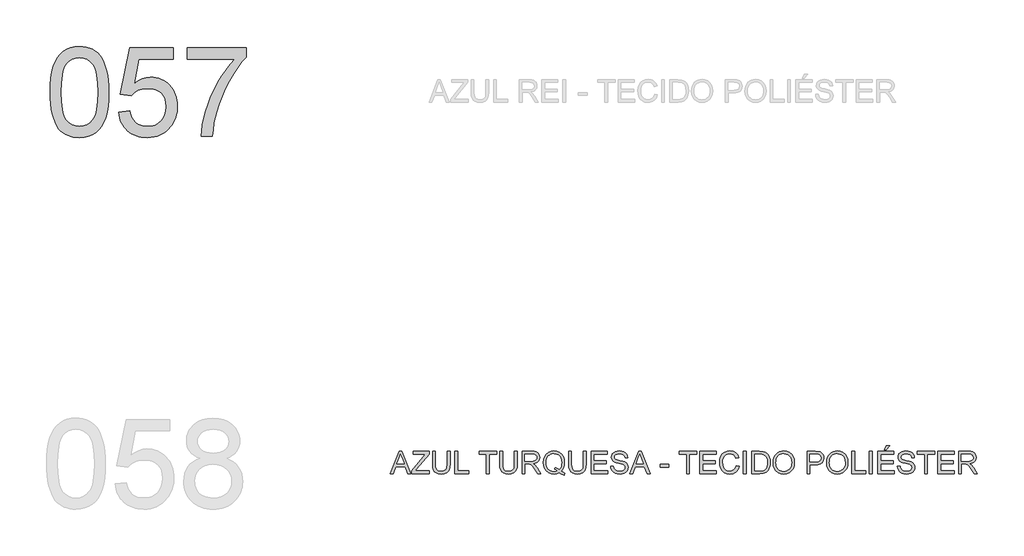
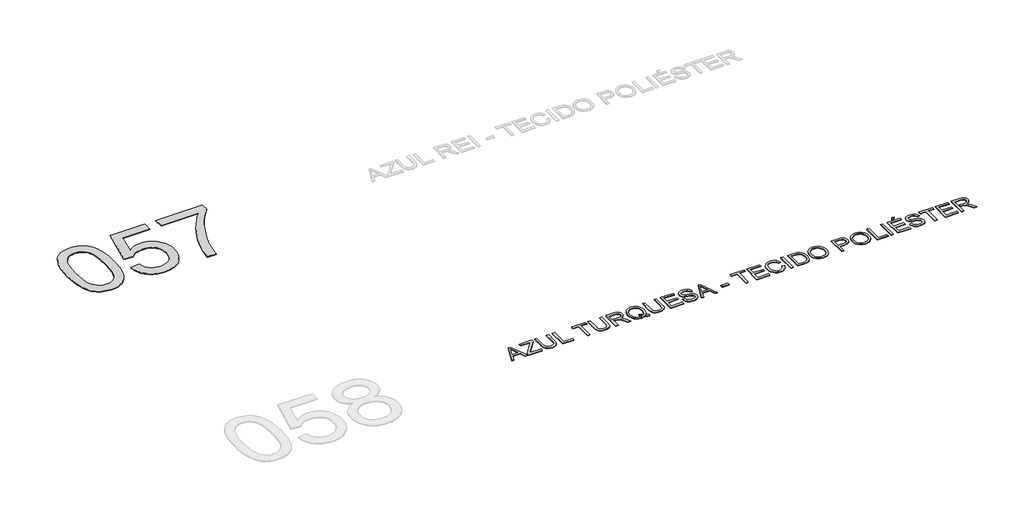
# One storey, part 18 of 35: 2 proxies.
"""IFC4 building model written with IfcOpenShell, lengths in millimetres."""

from ifc_helpers import new_model, si_unit, origin, origin_with_axes, place, context, project, spatial, polyline, outline, extrude, element, save

model = new_model("IFC4")

# Units and contexts
model_context = context("Model", 3, world=origin())
ifc_project = project(units=[si_unit("LENGTHUNIT", "METRE", prefix="MILLI")], contexts=[model_context])

# Site, building, storey
site = spatial("IfcSite", under=ifc_project)
building = spatial("IfcBuilding", under=site)
storey = spatial("IfcBuildingStorey", under=building, Name="Marelli - Linha YOU - Planta Baixa", Elevation=0.0)

# Proxies
placement = place(None, origin())
element("IfcBuildingElementProxy", 1, Name="1200mm Arial", ObjectType="1200mm Arial", at=placement, inside=storey, context=model_context, shape_type="SweptSolid", body=[
    extrude(outline(polyline([(-25134.0424838, -49895.792664), (-25131.2741718, -49794.4319773), (-25122.9692358, -49702.8385576), (-25109.1276757, -49621.0124048), (-25089.7494916, -49548.953519), (-25064.9174569, -49486.073289), (-25034.7143451, -49431.7831035), (-24999.1401562, -49386.0829627), (-24958.1948901, -49348.9728664), (-24911.7405912, -49320.2596767), (-24859.6393036, -49299.7502555), (-24801.8910274, -49287.4446027), (-24738.4957626, -49283.3427185), (-24690.8550442, -49285.7707396), (-24645.642347, -49293.0548031), (-24602.857671, -49305.194909), (-24562.5010161, -49322.1910572), (-24525.5472697, -49343.7581391), (-24492.971319, -49369.6110463), (-24464.7731641, -49399.7497788), (-24440.9528049, -49434.1743365), (-24420.314625, -49472.7467637), (-24401.6630078, -49515.3291046), (-24370.3194618, -49612.5235278), (-24358.3449029, -49669.6831928), (-24349.7916465, -49735.9479371), (-24344.6596927, -49811.3177609), (-24342.9490414, -49895.792664), (-24345.6897623, -49996.5095573), (-24353.9119248, -50087.6431245), (-24367.6155292, -50169.1933658), (-24386.8005752, -50241.1602811), (-24411.4394718, -50304.0681023), (-24441.5046279, -50358.4410612), (-24476.9960434, -50404.2791578), (-24517.9137183, -50441.5823921), (-24564.4231995, -50470.4887199), (-24616.690034, -50491.1360968), (-24674.7142217, -50503.524523), (-24738.4957626, -50507.6539984), (-24781.170074, -50505.8605737), (-24821.4899407, -50500.4802995), (-24859.4553626, -50491.5131759), (-24895.0663398, -50478.9592028), (-24928.3228721, -50462.8183803), (-24959.2249597, -50443.0907083), (-24987.7726025, -50419.7761868), (-25013.9658006, -50392.8748159), (-25042.1087732, -50350.2786794), (-25066.4993495, -50302.0999336), (-25087.1375294, -50248.3385785), (-25104.023313, -50188.9946142), (-25117.1567002, -50124.0680406), (-25126.5376911, -50053.5588577), (-25132.1662856, -49977.4670655), (-25134.0424838, -49895.792664)]), holes=[polyline([(-24983.3580186, -49895.4983584), (-24978.9434347, -50026.4919399), (-24965.6996828, -50132.5247279), (-24955.766869, -50176.1808245), (-24943.6267631, -50213.5967226), (-24929.2793653, -50244.7724225), (-24912.7246755, -50269.7079239), (-24875.3478648, -50307.884878), (-24833.8507758, -50335.1541309), (-24788.2334084, -50351.5156826), (-24738.4957626, -50356.9695332), (-24688.7581169, -50351.4972885), (-24643.1407495, -50335.0805545), (-24601.6436604, -50307.7193311), (-24564.2668497, -50269.4136183), (-24547.7121599, -50244.418336), (-24533.3647621, -50213.2104465), (-24521.2246563, -50175.7899498), (-24511.2918424, -50132.1568459), (-24498.0480906, -50026.2528166), (-24493.6335066, -49895.4983584), (-24497.9009378, -49767.9720648), (-24510.7032312, -49663.8062779), (-24520.3049513, -49620.4835744), (-24532.0403869, -49583.0009976), (-24545.9095381, -49551.3585475), (-24561.9124049, -49525.5562241), (-24598.6638162, -49485.5122689), (-24640.6391519, -49456.9094438), (-24687.8384119, -49439.7477487), (-24740.2615962, -49434.0271837), (-24789.7417245, -49439.067167), (-24834.5865397, -49454.187117), (-24874.7960418, -49479.3870337), (-24910.3702308, -49514.666917), (-24927.4767435, -49543.2145599), (-24942.3023879, -49577.2068562), (-24954.847164, -49616.6438061), (-24965.1110716, -49661.5254095), (-24978.7962819, -49767.6225769), (-24983.3580186, -49895.4983584)])]), origin_with_axes(), (0.0, 0.0, 1.0), 10.0),
    extrude(outline(polyline([(-24211.1001343, -50168.6139517), (-24060.4156691, -50149.7783935), (-24049.15848, -50198.2192552), (-24032.7509431, -50240.2405761), (-24011.1930581, -50275.8423562), (-23984.4848253, -50305.0245955), (-23952.6814268, -50327.7505057), (-23915.838045, -50343.9832988), (-23873.9546798, -50353.7229746), (-23827.0313314, -50356.9695332), (-23769.6417401, -50352.4537817), (-23719.0211776, -50338.9065272), (-23675.1696437, -50316.3277698), (-23638.0871386, -50284.7175093), (-23608.6013967, -50245.6392444), (-23587.5401525, -50200.6564734), (-23574.903406, -50149.7691965), (-23570.6911571, -50092.9774135), (-23574.6366915, -50039.3034304), (-23586.4732947, -49991.5891356), (-23606.2009667, -49949.8345291), (-23633.8197075, -49914.039611), (-23669.4214876, -49885.3264213), (-23713.0982775, -49864.817), (-23764.8500771, -49852.5113473), (-23824.6768866, -49848.4094631), (-23862.9642052, -49850.0465379), (-23897.775039, -49854.9577626), (-23929.109388, -49863.143137), (-23956.9672521, -49874.6026611), (-24004.2400884, -49904.6954083), (-24041.5801109, -49942.5872538), (-24192.2645762, -49923.7516957), (-24060.4156691, -49302.1782766), (-23476.5133664, -49302.1782766), (-23476.5133664, -49452.8627418), (-23938.5731523, -49452.8627418), (-24003.0260778, -49784.8394543), (-23949.8487354, -49746.7268796), (-23895.3838061, -49719.503612), (-23839.6312897, -49703.1696514), (-23782.5911863, -49697.7249978), (-23745.1522955, -49699.4126565), (-23709.2079254, -49704.4756324), (-23674.7580758, -49712.9139257), (-23641.8027468, -49724.7275363), (-23610.3419384, -49739.9164642), (-23580.3756506, -49758.4807093), (-23551.9038835, -49780.4202718), (-23524.9266369, -49805.7351516), (-23500.3360248, -49833.7033803), (-23479.024161, -49863.6029895), (-23460.9910454, -49895.4339791), (-23446.2366781, -49929.1963492), (-23434.7610592, -49964.8900998), (-23426.5641885, -50002.5152308), (-23421.646066, -50042.0717424), (-23420.0066919, -50083.5596344), (-23425.9111979, -50161.6241938), (-23433.2918304, -50198.6147284), (-23443.624716, -50234.2440996), (-23456.9098545, -50268.5123075), (-23473.1472461, -50301.4193519), (-23492.3368907, -50332.965233), (-23514.4787883, -50363.1499507), (-23544.479565, -50397.0180869), (-23577.0923038, -50426.3704716), (-23612.3170049, -50451.2071048), (-23650.1536681, -50471.5279865), (-23690.6022934, -50487.3331167), (-23733.662881, -50498.6224954), (-23779.3354307, -50505.3961227), (-23827.6199425, -50507.6539984), (-23905.3809993, -50501.8506599), (-23941.4403326, -50494.5964869), (-23975.6188692, -50484.4406445), (-24007.9166091, -50471.383133), (-24038.3335523, -50455.4239522), (-24066.8696989, -50436.5631021), (-24093.5250487, -50414.8005828), (-24117.8627419, -50390.6422321), (-24139.4459187, -50364.5938875), (-24158.2745791, -50336.6555493), (-24174.348723, -50306.8272173), (-24187.6683505, -50275.1088915), (-24198.2334615, -50241.500572), (-24211.1001343, -50168.6139517)])), origin_with_axes(), (0.0, 0.0, 1.0), 10.0),
    extrude(outline(polyline([(-23288.1577848, -49452.8627418), (-23288.1577848, -49302.1782766), (-22497.0643424, -49302.1782766), (-22497.0643424, -49424.0207934), (-22553.5802139, -49490.5246611), (-22609.8201739, -49566.7222194), (-22665.7842224, -49652.6134682), (-22721.4723595, -49748.1984076), (-22773.8679526, -49849.3383651), (-22819.9543696, -49951.8946683), (-22859.7316103, -50055.8673172), (-22893.1996748, -50161.2563118), (-22913.1388789, -50237.7941609), (-22929.1049575, -50317.9004653), (-22941.0979106, -50401.5752251), (-22949.1177381, -50488.8184403), (-23099.8022033, -50488.8184403), (-23095.0657226, -50414.8189769), (-23083.5050309, -50333.4986619), (-23065.1201282, -50244.8574952), (-23039.9110145, -50148.8954767), (-23008.1719953, -50050.1651463), (-22970.1973764, -49953.2190435), (-22925.9871576, -49858.0571684), (-22875.541339, -49764.679521), (-22821.1315919, -49675.8268221), (-22765.0295877, -49594.2397926), (-22707.2353262, -49519.9184325), (-22647.7488076, -49452.8627418), (-23288.1577848, -49452.8627418)])), origin_with_axes(), (0.0, 0.0, 1.0), 10.0),
])
element("IfcBuildingElementProxy", 2, Name="300mm Arial", ObjectType="300mm Arial", at=placement, inside=storey, context=model_context, shape_type="SweptSolid", body=[
    extrude(outline(polyline([(-20555.6877131, -55030.5663201), (-20435.3903007, -54729.1973896), (-20403.3109907, -54729.1973896), (-20283.0135783, -55030.5663201), (-20322.8184102, -55030.5663201), (-20357.3257413, -54936.3885293), (-20481.4491265, -54936.3885293), (-20515.8828812, -55030.5663201), (-20555.6877131, -55030.5663201)]), holes=[polyline([(-20467.6167635, -54898.717413), (-20371.0845279, -54898.717413), (-20398.2342192, -54824.6259792), (-20419.3506457, -54766.8685059), (-20438.1126275, -54818.1512561), (-20467.6167635, -54898.717413)])]), origin_with_axes(), (0.0, 0.0, 1.0), 10.0),
    extrude(outline(polyline([(-20266.3117357, -55030.5663201), (-20266.3117357, -54991.4972522), (-20112.1691797, -54802.7737887), (-20082.8857729, -54766.8685059), (-20247.4761776, -54766.8685059), (-20247.4761776, -54729.1973896), (-20035.5761483, -54729.1973896), (-20035.5761483, -54766.8685059), (-20204.2868313, -54973.397458), (-20220.1793335, -54992.8952038), (-20030.8672588, -54992.8952038), (-20030.8672588, -55030.5663201), (-20266.3117357, -55030.5663201)])), origin_with_axes(), (0.0, 0.0, 1.0), 10.0),
    extrude(outline(polyline([(-19790.7138923, -54729.1973896), (-19753.042776, -54729.1973896), (-19753.042776, -54903.0584205), (-19755.5995559, -54943.7737604), (-19763.2698955, -54975.1265034), (-19777.5988992, -54999.3147446), (-19800.1316714, -55018.5365788), (-19830.9233944, -55031.0905519), (-19870.0292505, -55035.2752096), (-19908.279781, -55031.6331779), (-19938.8599718, -55020.7070826), (-19961.7790201, -55002.8740029), (-19977.0461229, -54978.5110178), (-19985.6269704, -54945.8338995), (-19988.487253, -54903.0584205), (-19988.487253, -54729.1973896), (-19950.8161366, -54729.1973896), (-19950.8161366, -54901.7340454), (-19948.9583326, -54935.588386), (-19943.3849203, -54959.1604248), (-19933.2865596, -54975.4851883), (-19917.8539099, -54987.597703), (-19897.7307647, -54995.1024957), (-19873.5609177, -54997.6040933), (-19835.2460079, -54992.6560805), (-19820.9032086, -54986.4710644), (-19809.7701797, -54977.812042), (-19801.433054, -54965.6351479), (-19795.4779642, -54948.8965171), (-19790.7138923, -54901.7340454), (-19790.7138923, -54729.1973896)])), origin_with_axes(), (0.0, 0.0, 1.0), 10.0),
    extrude(outline(polyline([(-19687.1183225, -55030.5663201), (-19687.1183225, -54729.1973896), (-19649.4472062, -54729.1973896), (-19649.4472062, -54992.8952038), (-19498.762741, -54992.8952038), (-19498.762741, -55030.5663201), (-19687.1183225, -55030.5663201)])), origin_with_axes(), (0.0, 0.0, 1.0), 10.0),
    extrude(outline(polyline([(-19263.3182641, -55030.5663201), (-19263.3182641, -54766.8685059), (-19362.2049444, -54766.8685059), (-19362.2049444, -54729.1973896), (-19126.7604675, -54729.1973896), (-19126.7604675, -54766.8685059), (-19225.6471478, -54766.8685059), (-19225.6471478, -55030.5663201), (-19263.3182641, -55030.5663201)])), origin_with_axes(), (0.0, 0.0, 1.0), 10.0),
    extrude(outline(polyline([(-18886.607101, -54729.1973896), (-18848.9359847, -54729.1973896), (-18848.9359847, -54903.0584205), (-18851.4927646, -54943.7737604), (-18859.1631042, -54975.1265034), (-18873.4921079, -54999.3147446), (-18896.0248801, -55018.5365788), (-18926.8166031, -55031.0905519), (-18965.9224592, -55035.2752096), (-19004.1729896, -55031.6331779), (-19034.7531805, -55020.7070826), (-19057.6722288, -55002.8740029), (-19072.9393316, -54978.5110178), (-19081.5201791, -54945.8338995), (-19084.3804616, -54903.0584205), (-19084.3804616, -54729.1973896), (-19046.7093453, -54729.1973896), (-19046.7093453, -54901.7340454), (-19044.8515412, -54935.588386), (-19039.278129, -54959.1604248), (-19029.1797682, -54975.4851883), (-19013.7471185, -54987.597703), (-18993.6239734, -54995.1024957), (-18969.4541263, -54997.6040933), (-18931.1392165, -54992.6560805), (-18916.7964172, -54986.4710644), (-18905.6633883, -54977.812042), (-18897.3262626, -54965.6351479), (-18891.3711728, -54948.8965171), (-18886.607101, -54901.7340454), (-18886.607101, -54729.1973896)])), origin_with_axes(), (0.0, 0.0, 1.0), 10.0),
    extrude(outline(polyline([(-18783.0115312, -55030.5663201), (-18783.0115312, -54729.1973896), (-18653.1491869, -54729.1973896), (-18618.2463826, -54731.2299376), (-18592.8533279, -54737.3275817), (-18574.2936812, -54748.5847708), (-18559.8911011, -54766.0959537), (-18550.648066, -54787.8101885), (-18547.5670542, -54811.6765329), (-18552.6714169, -54841.3646099), (-18567.984505, -54865.9759154), (-18579.5842841, -54876.0052983), (-18593.9661709, -54884.0205273), (-18631.0762671, -54894.0085235), (-18609.665535, -54910.1217548), (-18579.1313294, -54948.8965171), (-18528.8786489, -55030.5663201), (-18572.6566063, -55030.5663201), (-18611.872827, -54968.0999573), (-18640.1997406, -54926.750021), (-18660.1021566, -54907.2154871), (-18678.0180097, -54900.0417882), (-18699.8702002, -54898.717413), (-18745.3404149, -54898.717413), (-18745.3404149, -55030.5663201), (-18783.0115312, -55030.5663201)]), holes=[polyline([(-18745.3404149, -54861.0462967), (-18661.0218616, -54861.0462967), (-18636.8060292, -54859.7127245), (-18618.0164563, -54855.7120078), (-18603.8713936, -54848.7774322), (-18593.5890918, -54838.6422832), (-18587.3259009, -54826.3826157), (-18585.2381706, -54813.0744845), (-18589.2204931, -54794.6987789), (-18601.1674609, -54779.8915286), (-18621.7228674, -54770.1242616), (-18651.5305061, -54766.8685059), (-18745.3404149, -54766.8685059), (-18745.3404149, -54861.0462967)])]), origin_with_axes(), (0.0, 0.0, 1.0), 10.0),
    extrude(outline(polyline([(-18255.2480209, -54994.4403081), (-18230.9126269, -55013.036743), (-18208.5270075, -55025.8574305), (-18218.6805506, -55053.4485802), (-18249.748185, -55039.0460001), (-18280.7054549, -55018.205485), (-18315.562274, -55031.0077785), (-18353.913972, -55035.2752096), (-18392.449611, -55030.3547879), (-18427.2696418, -55015.5935229), (-18456.433487, -54991.9203165), (-18478.000569, -54960.2640708), (-18491.3270942, -54922.3630282), (-18495.7692693, -54879.9554312), (-18491.3362913, -54837.511046), (-18478.0373572, -54799.0581805), (-18456.5530486, -54766.9512794), (-18427.5639474, -54743.5447874), (-18392.8726753, -54729.2525719), (-18354.281854, -54724.4885001), (-18315.38753, -54729.3629365), (-18280.5215139, -54743.9862458), (-18251.578398, -54767.3835407), (-18230.4527744, -54798.5799339), (-18217.5401164, -54835.9199564), (-18213.235897, -54877.7481393), (-18215.8478592, -54912.5313819), (-18223.6837457, -54943.5990164), (-18236.7987388, -54970.9142545), (-18255.2480209, -54994.4403081)]), holes=[polyline([(-18343.5396997, -54944.3347804), (-18311.8650599, -54956.3093393), (-18286.2972613, -54972.9559996), (-18270.8140278, -54955.4816049), (-18259.7545753, -54934.1076609), (-18253.1189038, -54908.8341679), (-18250.9070133, -54879.6611256), (-18254.0340103, -54846.5057608), (-18263.4150012, -54817.8201623), (-18278.8200597, -54794.3308969), (-18300.0192597, -54776.7645316), (-18325.5778613, -54765.8108452), (-18354.0611248, -54762.1596164), (-18375.5454333, -54764.0059242), (-18395.1167554, -54769.5448474), (-18412.7750912, -54778.7763863), (-18428.5204406, -54791.7005406), (-18441.4606898, -54808.2897193), (-18450.7037249, -54828.5163313), (-18456.249546, -54852.3803764), (-18458.098153, -54879.8818548), (-18456.2702394, -54906.6659634), (-18450.7864984, -54930.1437324), (-18441.64693, -54950.3151621), (-18428.8515344, -54967.1802523), (-18413.2142503, -54980.4906827), (-18395.5490168, -54989.998133), (-18375.8558337, -54995.7026032), (-18354.1347012, -54997.6040933), (-18333.2206098, -54995.6727128), (-18313.5941053, -54989.8785714), (-18332.889516, -54979.853787), (-18353.2517844, -54973.1767288), (-18343.5396997, -54944.3347804)])]), origin_with_axes(), (0.0, 0.0, 1.0), 10.0),
    extrude(outline(polyline([(-17958.955862, -54729.1973896), (-17921.2847457, -54729.1973896), (-17921.2847457, -54903.0584205), (-17923.8415255, -54943.7737604), (-17931.5118651, -54975.1265034), (-17945.8408688, -54999.3147446), (-17968.373641, -55018.5365788), (-17999.165364, -55031.0905519), (-18038.2712201, -55035.2752096), (-18076.5217506, -55031.6331779), (-18107.1019414, -55020.7070826), (-18130.0209897, -55002.8740029), (-18145.2880925, -54978.5110178), (-18153.8689401, -54945.8338995), (-18156.7292226, -54903.0584205), (-18156.7292226, -54729.1973896), (-18119.0581063, -54729.1973896), (-18119.0581063, -54901.7340454), (-18117.2003022, -54935.588386), (-18111.62689, -54959.1604248), (-18101.5285292, -54975.4851883), (-18086.0958795, -54987.597703), (-18065.9727344, -54995.1024957), (-18041.8028873, -54997.6040933), (-18003.4879775, -54992.6560805), (-17989.1451782, -54986.4710644), (-17978.0121493, -54977.812042), (-17969.6750236, -54965.6351479), (-17963.7199338, -54948.8965171), (-17958.955862, -54901.7340454), (-17958.955862, -54729.1973896)])), origin_with_axes(), (0.0, 0.0, 1.0), 10.0),
    extrude(outline(polyline([(-17855.3602921, -55030.5663201), (-17855.3602921, -54729.1973896), (-17638.7513734, -54729.1973896), (-17638.7513734, -54766.8685059), (-17817.6891758, -54766.8685059), (-17817.6891758, -54856.3374072), (-17648.1691524, -54856.3374072), (-17648.1691524, -54894.0085235), (-17817.6891758, -54894.0085235), (-17817.6891758, -54992.8952038), (-17634.0424838, -54992.8952038), (-17634.0424838, -55030.5663201), (-17855.3602921, -55030.5663201)])), origin_with_axes(), (0.0, 0.0, 1.0), 10.0),
    extrude(outline(polyline([(-17591.662478, -54926.9707502), (-17553.9913617, -54926.9707502), (-17549.6687482, -54947.8756446), (-17541.8512558, -54964.6786547), (-17529.6559677, -54978.0143771), (-17512.199967, -54988.517408), (-17490.8628113, -54995.332422), (-17467.024058, -54997.6040933), (-17446.0363902, -54995.884245), (-17427.6606845, -54990.7247), (-17412.7706608, -54982.5577197), (-17402.2400387, -54971.8155654), (-17395.9768477, -54959.4823215), (-17393.8891174, -54946.5420724), (-17395.4526158, -54933.932917), (-17400.1431113, -54923.0344129), (-17409.671255, -54913.7361954), (-17425.7476982, -54905.9279001), (-17480.5989036, -54891.5437141), (-17516.6053539, -54882.0247675), (-17539.6439639, -54872.9656733), (-17558.3967486, -54860.2921386), (-17571.6864856, -54844.9330653), (-17579.6051456, -54827.2195472), (-17582.2446989, -54807.4826782), (-17578.9797462, -54785.4189555), (-17569.1848881, -54764.845155), (-17553.1176419, -54747.4075484), (-17531.0355252, -54734.7524077), (-17504.5296274, -54727.054477), (-17475.1910383, -54724.4885001), (-17443.4060339, -54727.1740386), (-17415.5941551, -54735.2306543), (-17392.7486832, -54748.4928003), (-17375.8628996, -54766.7949295), (-17365.1759276, -54788.9966079), (-17360.9268906, -54813.9574013), (-17398.5980069, -54813.9574013), (-17405.5141884, -54791.4798114), (-17419.9351626, -54775.2562154), (-17442.4679348, -54765.4337661), (-17473.7195103, -54762.1596164), (-17505.7068498, -54765.3969779), (-17527.6510108, -54775.1090626), (-17540.3429396, -54789.4012781), (-17544.5735826, -54806.3790322), (-17541.5753443, -54820.8551887), (-17532.5806296, -54832.4986539), (-17511.3170502, -54842.9097143), (-17471.07076, -54853.541504), (-17429.5368827, -54863.6398648), (-17404.4105424, -54872.4506385), (-17382.935431, -54886.1174547), (-17367.9534367, -54902.9848441), (-17359.15186, -54922.868866), (-17356.2180011, -54945.5855792), (-17359.5933184, -54968.8081301), (-17369.7192703, -54990.6511236), (-17386.1819896, -55009.4498935), (-17408.567609, -55023.539774), (-17435.487374, -55032.3413507), (-17465.55253, -55035.2752096), (-17502.4602912, -55032.1114244), (-17532.8381469, -55022.620069), (-17557.0355852, -55006.764355), (-17575.4020938, -54984.5074943), (-17587.1927117, -54957.3945912), (-17591.662478, -54926.9707502)])), origin_with_axes(), (0.0, 0.0, 1.0), 10.0),
    extrude(outline(polyline([(-17334.8072689, -55030.5663201), (-17214.5098565, -54729.1973896), (-17182.4305465, -54729.1973896), (-17062.1331341, -55030.5663201), (-17101.937966, -55030.5663201), (-17136.4452971, -54936.3885293), (-17260.5686823, -54936.3885293), (-17295.0024371, -55030.5663201), (-17334.8072689, -55030.5663201)]), holes=[polyline([(-17246.7363193, -54898.717413), (-17150.2040838, -54898.717413), (-17177.353775, -54824.6259792), (-17198.4702015, -54766.8685059), (-17217.2321833, -54818.1512561), (-17246.7363193, -54898.717413)])]), origin_with_axes(), (0.0, 0.0, 1.0), 10.0),
    extrude(outline(polyline([(-16927.7090531, -54941.0974188), (-16927.7090531, -54903.4263025), (-16809.9868146, -54903.4263025), (-16809.9868146, -54941.0974188), (-16927.7090531, -54941.0974188)])), origin_with_axes(), (0.0, 0.0, 1.0), 10.0),
    extrude(outline(polyline([(-16569.8334482, -55030.5663201), (-16569.8334482, -54766.8685059), (-16668.7201285, -54766.8685059), (-16668.7201285, -54729.1973896), (-16433.2756516, -54729.1973896), (-16433.2756516, -54766.8685059), (-16532.1623319, -54766.8685059), (-16532.1623319, -55030.5663201), (-16569.8334482, -55030.5663201)])), origin_with_axes(), (0.0, 0.0, 1.0), 10.0),
    extrude(outline(polyline([(-16390.8956457, -55030.5663201), (-16390.8956457, -54729.1973896), (-16174.286727, -54729.1973896), (-16174.286727, -54766.8685059), (-16353.2245294, -54766.8685059), (-16353.2245294, -54856.3374072), (-16183.704506, -54856.3374072), (-16183.704506, -54894.0085235), (-16353.2245294, -54894.0085235), (-16353.2245294, -54992.8952038), (-16169.5778374, -54992.8952038), (-16169.5778374, -55030.5663201), (-16390.8956457, -55030.5663201)])), origin_with_axes(), (0.0, 0.0, 1.0), 10.0),
    extrude(outline(polyline([(-15901.1711337, -54923.4390831), (-15863.5000174, -54933.1511677), (-15870.9542264, -54956.5783531), (-15880.8824417, -54977.0486868), (-15893.2846635, -54994.5621691), (-15908.1608916, -55009.1187997), (-15925.1754339, -55020.5622291), (-15943.992598, -55028.7361071), (-15964.6123838, -55033.640434), (-15987.0347914, -55035.2752096), (-16030.7299754, -55030.3271968), (-16065.4304446, -55015.4831583), (-16092.0283128, -54991.2581289), (-16111.415694, -54958.1671434), (-16123.2522972, -54919.2636224), (-16127.1978316, -54877.6009865), (-16122.7372624, -54833.6574821), (-16109.3555548, -54795.7104543), (-16087.7516846, -54764.9647166), (-16058.6246277, -54742.6250824), (-16024.0805083, -54729.0226457), (-15986.225451, -54724.4885001), (-15944.9215, -54730.3562179), (-15926.9527638, -54737.6908652), (-15910.7728538, -54747.9593714), (-15896.6484845, -54760.8904235), (-15884.8463702, -54776.2127086), (-15868.208907, -54814.0309777), (-15905.8800233, -54823.0072984), (-15918.9398341, -54795.5357104), (-15936.7821109, -54776.6909552), (-15959.6275828, -54765.7924511), (-15987.696979, -54762.1596164), (-16020.0522005, -54766.1879242), (-16046.6316746, -54778.2728478), (-16066.800805, -54797.1451941), (-16079.9249952, -54821.5357704), (-16087.1262853, -54849.1085259), (-16089.5267153, -54877.5274101), (-16086.6848269, -54912.3290468), (-16078.1591616, -54942.421794), (-16063.6278228, -54966.6560205), (-16042.7689137, -54983.8820949), (-16017.7621351, -54994.1735937), (-15990.7871878, -54997.6040933), (-15959.3424742, -54992.931992), (-15933.1400791, -54978.9156879), (-15913.3572248, -54955.702334), (-15901.1711337, -54923.4390831)])), origin_with_axes(), (0.0, 0.0, 1.0), 10.0),
    extrude(outline(polyline([(-15806.993343, -55030.5663201), (-15806.993343, -54729.1973896), (-15769.3222267, -54729.1973896), (-15769.3222267, -55030.5663201), (-15806.993343, -55030.5663201)])), origin_with_axes(), (0.0, 0.0, 1.0), 10.0),
    extrude(outline(polyline([(-15693.9799941, -55030.5663201), (-15693.9799941, -54729.1973896), (-15590.0165422, -54729.1973896), (-15536.2321945, -54733.5383972), (-15512.2095002, -54741.9077126), (-15491.9392023, -54755.0962821), (-15471.0986873, -54778.0521186), (-15456.2546488, -54806.5997614), (-15447.3702986, -54840.1873876), (-15444.4088485, -54878.2631741), (-15446.4138054, -54910.6091985), (-15452.428676, -54939.0740679), (-15461.5889377, -54963.3082943), (-15473.0300678, -54982.9623899), (-15486.2002432, -54998.477813), (-15500.547641, -55010.2960221), (-15517.0195573, -55019.0608107), (-15536.5632883, -55025.4159721), (-15585.0133471, -55030.5663201), (-15693.9799941, -55030.5663201)]), holes=[polyline([(-15656.3088778, -54992.8952038), (-15589.6486602, -54992.8952038), (-15562.0759047, -54991.5340404), (-15541.1618133, -54987.4505502), (-15525.3796757, -54980.8838566), (-15513.2027816, -54972.0730828), (-15500.1153796, -54955.7667134), (-15490.2837333, -54934.6594839), (-15484.130907, -54908.6594239), (-15482.0799648, -54877.6745629), (-15486.0990756, -54836.6189322), (-15498.156408, -54806.3054558), (-15515.9710936, -54785.4833349), (-15537.2622641, -54772.9017706), (-15558.9305136, -54768.3768221), (-15590.6787298, -54766.8685059), (-15656.3088778, -54766.8685059), (-15656.3088778, -54992.8952038)])]), origin_with_axes(), (0.0, 0.0, 1.0), 10.0),
    extrude(outline(polyline([(-15406.7377322, -54883.8549804), (-15404.2269376, -54848.5061192), (-15396.6945538, -54817.213157), (-15384.1405807, -54789.9760937), (-15366.5650183, -54766.7949295), (-15345.020929, -54748.2858666), (-15320.5613749, -54735.0651074), (-15293.1863559, -54727.1326519), (-15262.8958721, -54724.4885001), (-15223.3669517, -54729.454907), (-15187.9215215, -54744.3541278), (-15158.4909619, -54768.1376988), (-15137.0066534, -54799.7571563), (-15123.8732661, -54837.68579), (-15119.4954704, -54880.3968896), (-15124.1031924, -54923.6782064), (-15137.9263583, -54962.140269), (-15160.2016132, -54993.8149087), (-15190.1656017, -55016.733957), (-15225.3075293, -55030.6398965), (-15263.1166013, -55035.2752096), (-15303.252527, -55030.1524528), (-15338.9002923, -55014.7841825), (-15368.2572755, -54990.5591531), (-15389.5208548, -54958.8661192), (-15402.4335129, -54922.3998164), (-15406.7377322, -54883.8549804)]), holes=[polyline([(-15369.0666159, -54884.2228624), (-15367.18352, -54909.1974513), (-15361.5342321, -54931.3669401), (-15352.1187523, -54950.7313286), (-15338.9370805, -54967.2906169), (-15322.9135204, -54980.5527628), (-15304.9723753, -54990.0257242), (-15285.1136454, -54995.709501), (-15263.3373305, -54997.6040933), (-15241.1885351, -54995.6911069), (-15221.0952804, -54989.9521478), (-15203.0575663, -54980.3872159), (-15187.0753929, -54966.9963113), (-15173.9902902, -54950.0875351), (-15164.6437882, -54929.9689885), (-15159.0358871, -54906.6406715), (-15157.1665867, -54880.102584), (-15160.3671601, -54846.7540812), (-15169.9688801, -54817.9305269), (-15185.7234266, -54794.358488), (-15207.382479, -54776.7645316), (-15233.5112977, -54765.8108452), (-15262.6751429, -54762.1596164), (-15283.6950004, -54763.9185522), (-15303.1973447, -54769.1953595), (-15321.1821757, -54777.9900385), (-15337.6494935, -54790.302589), (-15351.3944846, -54806.7262208), (-15361.2123353, -54827.8541437), (-15367.1030458, -54853.6863575), (-15369.0666159, -54884.2228624)])]), origin_with_axes(), (0.0, 0.0, 1.0), 10.0),
    extrude(outline(polyline([(-14949.975447, -55030.5663201), (-14949.975447, -54729.1973896), (-14838.2864733, -54729.1973896), (-14793.2577171, -54732.0668692), (-14773.1805572, -54737.4287493), (-14756.6534585, -54746.1567496), (-14743.3453274, -54758.6463433), (-14732.9250699, -54775.2930036), (-14726.1928293, -54794.9287051), (-14723.9487492, -54816.3854225), (-14725.4639631, -54834.8852883), (-14730.009605, -54851.9044291), (-14737.5856749, -54867.4428449), (-14748.1921727, -54881.5005356), (-14762.7534019, -54893.1531978), (-14782.1936661, -54901.476528), (-14806.5129652, -54906.470526), (-14835.7112993, -54908.1351921), (-14912.3043307, -54908.1351921), (-14912.3043307, -55030.5663201), (-14949.975447, -55030.5663201)]), holes=[polyline([(-14912.3043307, -54870.4640758), (-14833.5040073, -54870.4640758), (-14800.1003222, -54867.005985), (-14778.0274025, -54856.6317127), (-14765.7217497, -54839.9850525), (-14761.6198655, -54817.7097977), (-14764.0386896, -54800.7872259), (-14771.295162, -54786.5134045), (-14782.4879717, -54775.7712502), (-14796.7158078, -54769.4436799), (-14834.3869241, -54766.8685059), (-14912.3043307, -54766.8685059), (-14912.3043307, -54870.4640758)])]), origin_with_axes(), (0.0, 0.0, 1.0), 10.0),
    extrude(outline(polyline([(-14686.2776329, -54883.8549804), (-14683.7668383, -54848.5061192), (-14676.2344544, -54817.213157), (-14663.6804813, -54789.9760937), (-14646.104919, -54766.7949295), (-14624.5608297, -54748.2858666), (-14600.1012755, -54735.0651074), (-14572.7262565, -54727.1326519), (-14542.4357728, -54724.4885001), (-14502.9068524, -54729.454907), (-14467.4614221, -54744.3541278), (-14438.0308625, -54768.1376988), (-14416.546554, -54799.7571563), (-14403.4131668, -54837.68579), (-14399.035371, -54880.3968896), (-14403.643093, -54923.6782064), (-14417.466259, -54962.140269), (-14439.7415138, -54993.8149087), (-14469.7055023, -55016.733957), (-14504.8474299, -55030.6398965), (-14542.656502, -55035.2752096), (-14582.7924276, -55030.1524528), (-14618.440193, -55014.7841825), (-14647.7971762, -54990.5591531), (-14669.0607555, -54958.8661192), (-14681.9734135, -54922.3998164), (-14686.2776329, -54883.8549804)]), holes=[polyline([(-14648.6065166, -54884.2228624), (-14646.7234206, -54909.1974513), (-14641.0741327, -54931.3669401), (-14631.6586529, -54950.7313286), (-14618.4769812, -54967.2906169), (-14602.453421, -54980.5527628), (-14584.512276, -54990.0257242), (-14564.653546, -54995.709501), (-14542.8772311, -54997.6040933), (-14520.7284358, -54995.6911069), (-14500.6351811, -54989.9521478), (-14482.597467, -54980.3872159), (-14466.6152935, -54966.9963113), (-14453.5301908, -54950.0875351), (-14444.1836889, -54929.9689885), (-14438.5757877, -54906.6406715), (-14436.7064873, -54880.102584), (-14439.9070607, -54846.7540812), (-14449.5087808, -54817.9305269), (-14465.2633272, -54794.358488), (-14486.9223797, -54776.7645316), (-14513.0511984, -54765.8108452), (-14542.2150436, -54762.1596164), (-14563.2349011, -54763.9185522), (-14582.7372453, -54769.1953595), (-14600.7220764, -54777.9900385), (-14617.1893942, -54790.302589), (-14630.9343852, -54806.7262208), (-14640.752236, -54827.8541437), (-14646.6429464, -54853.6863575), (-14648.6065166, -54884.2228624)])]), origin_with_axes(), (0.0, 0.0, 1.0), 10.0),
    extrude(outline(polyline([(-14347.2375861, -55030.5663201), (-14347.2375861, -54729.1973896), (-14309.5664698, -54729.1973896), (-14309.5664698, -54992.8952038), (-14158.8820046, -54992.8952038), (-14158.8820046, -55030.5663201), (-14347.2375861, -55030.5663201)])), origin_with_axes(), (0.0, 0.0, 1.0), 10.0),
    extrude(outline(polyline([(-14111.7931092, -55030.5663201), (-14111.7931092, -54729.1973896), (-14074.1219929, -54729.1973896), (-14074.1219929, -55030.5663201), (-14111.7931092, -55030.5663201)])), origin_with_axes(), (0.0, 0.0, 1.0), 10.0),
    extrude(outline(polyline([(-13998.7797603, -55030.5663201), (-13998.7797603, -54729.1973896), (-13782.1708415, -54729.1973896), (-13782.1708415, -54766.8685059), (-13961.108644, -54766.8685059), (-13961.108644, -54856.3374072), (-13791.5886206, -54856.3374072), (-13791.5886206, -54894.0085235), (-13961.108644, -54894.0085235), (-13961.108644, -54992.8952038), (-13777.461952, -54992.8952038), (-13777.461952, -55030.5663201), (-13998.7797603, -55030.5663201)])), origin_with_axes(), (0.0, 0.0, 1.0), 10.0),
    extrude(outline(polyline([(-13914.0197486, -54710.3618315), (-13885.7664114, -54653.855157), (-13838.677516, -54653.855157), (-13885.7664114, -54710.3618315), (-13914.0197486, -54710.3618315)])), origin_with_axes(), (0.0, 0.0, 1.0), 10.0),
    extrude(outline(polyline([(-13735.0819461, -54926.9707502), (-13697.4108298, -54926.9707502), (-13693.0882164, -54947.8756446), (-13685.270724, -54964.6786547), (-13673.0754359, -54978.0143771), (-13655.6194352, -54988.517408), (-13634.2822795, -54995.332422), (-13610.4435262, -54997.6040933), (-13589.4558583, -54995.884245), (-13571.0801527, -54990.7247), (-13556.1901289, -54982.5577197), (-13545.6595068, -54971.8155654), (-13539.3963159, -54959.4823215), (-13537.3085855, -54946.5420724), (-13538.872084, -54933.932917), (-13543.5625795, -54923.0344129), (-13553.0907231, -54913.7361954), (-13569.1671663, -54905.9279001), (-13624.0183718, -54891.5437141), (-13660.0248221, -54882.0247675), (-13683.063432, -54872.9656733), (-13701.8162167, -54860.2921386), (-13715.1059538, -54844.9330653), (-13723.0246137, -54827.2195472), (-13725.6641671, -54807.4826782), (-13722.3992144, -54785.4189555), (-13712.6043562, -54764.845155), (-13696.5371101, -54747.4075484), (-13674.4549933, -54734.7524077), (-13647.9490956, -54727.054477), (-13618.6105065, -54724.4885001), (-13586.8255021, -54727.1740386), (-13559.0136232, -54735.2306543), (-13536.1681513, -54748.4928003), (-13519.2823678, -54766.7949295), (-13508.5953958, -54788.9966079), (-13504.3463588, -54813.9574013), (-13542.0174751, -54813.9574013), (-13548.9336566, -54791.4798114), (-13563.3546308, -54775.2562154), (-13585.887403, -54765.4337661), (-13617.1389785, -54762.1596164), (-13649.126318, -54765.3969779), (-13671.070479, -54775.1090626), (-13683.7624078, -54789.4012781), (-13687.9930508, -54806.3790322), (-13684.9948125, -54820.8551887), (-13676.0000977, -54832.4986539), (-13654.7365184, -54842.9097143), (-13614.4902281, -54853.541504), (-13572.9563509, -54863.6398648), (-13547.8300106, -54872.4506385), (-13526.3548991, -54886.1174547), (-13511.3729049, -54902.9848441), (-13502.5713281, -54922.868866), (-13499.6374692, -54945.5855792), (-13503.0127865, -54968.8081301), (-13513.1387384, -54990.6511236), (-13529.6014577, -55009.4498935), (-13551.9870771, -55023.539774), (-13578.9068421, -55032.3413507), (-13608.9719982, -55035.2752096), (-13645.8797594, -55032.1114244), (-13676.2576151, -55022.620069), (-13700.4550533, -55006.764355), (-13718.821562, -54984.5074943), (-13730.6121799, -54957.3945912), (-13735.0819461, -54926.9707502)])), origin_with_axes(), (0.0, 0.0, 1.0), 10.0),
    extrude(outline(polyline([(-13367.7885622, -55030.5663201), (-13367.7885622, -54766.8685059), (-13466.6752425, -54766.8685059), (-13466.6752425, -54729.1973896), (-13231.2307655, -54729.1973896), (-13231.2307655, -54766.8685059), (-13330.1174458, -54766.8685059), (-13330.1174458, -55030.5663201), (-13367.7885622, -55030.5663201)])), origin_with_axes(), (0.0, 0.0, 1.0), 10.0),
    extrude(outline(polyline([(-13188.8507597, -55030.5663201), (-13188.8507597, -54729.1973896), (-12972.2418409, -54729.1973896), (-12972.2418409, -54766.8685059), (-13151.1796434, -54766.8685059), (-13151.1796434, -54856.3374072), (-12981.65962, -54856.3374072), (-12981.65962, -54894.0085235), (-13151.1796434, -54894.0085235), (-13151.1796434, -54992.8952038), (-12967.5329514, -54992.8952038), (-12967.5329514, -55030.5663201), (-13188.8507597, -55030.5663201)])), origin_with_axes(), (0.0, 0.0, 1.0), 10.0),
    extrude(outline(polyline([(-12911.0262769, -55030.5663201), (-12911.0262769, -54729.1973896), (-12781.1639326, -54729.1973896), (-12746.2611284, -54731.2299376), (-12720.8680736, -54737.3275817), (-12702.308427, -54748.5847708), (-12687.9058469, -54766.0959537), (-12678.6628117, -54787.8101885), (-12675.5818, -54811.6765329), (-12680.6861627, -54841.3646099), (-12695.9992508, -54865.9759154), (-12707.5990299, -54876.0052983), (-12721.9809167, -54884.0205273), (-12759.0910129, -54894.0085235), (-12737.6802808, -54910.1217548), (-12707.1460752, -54948.8965171), (-12656.8933947, -55030.5663201), (-12700.6713521, -55030.5663201), (-12739.8875728, -54968.0999573), (-12768.2144864, -54926.750021), (-12788.1169024, -54907.2154871), (-12806.0327555, -54900.0417882), (-12827.884946, -54898.717413), (-12873.3551606, -54898.717413), (-12873.3551606, -55030.5663201), (-12911.0262769, -55030.5663201)]), holes=[polyline([(-12873.3551606, -54861.0462967), (-12789.0366073, -54861.0462967), (-12764.820775, -54859.7127245), (-12746.0312021, -54855.7120078), (-12731.8861394, -54848.7774322), (-12721.6038376, -54838.6422832), (-12715.3406467, -54826.3826157), (-12713.2529163, -54813.0744845), (-12717.2352389, -54794.6987789), (-12729.1822067, -54779.8915286), (-12749.7376132, -54770.1242616), (-12779.5452519, -54766.8685059), (-12873.3551606, -54766.8685059), (-12873.3551606, -54861.0462967)])]), origin_with_axes(), (0.0, 0.0, 1.0), 10.0),
])

save(model, "model.ifc")
